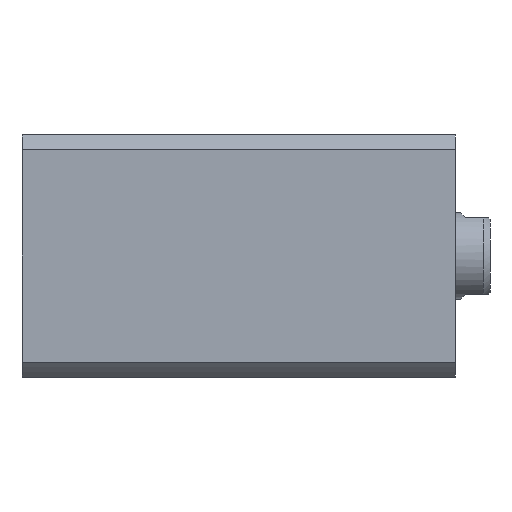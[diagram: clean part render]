
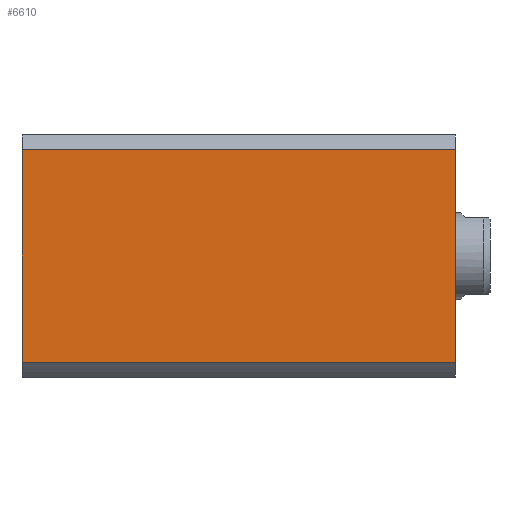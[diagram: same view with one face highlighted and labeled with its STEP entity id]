
A CAD part, left-side view. The second image highlights one B-rep face of the part: STEP entity #6610.
In plain terms, the highlighted planar face has unit normal (-1, 0, 0).
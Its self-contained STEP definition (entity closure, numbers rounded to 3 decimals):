
#448 = CARTESIAN_POINT ( 'NONE',  ( -35., 35., 0. ) ) ;
#485 = VERTEX_POINT ( 'NONE', #8207 ) ;
#511 = ORIENTED_EDGE ( 'NONE', *, *, #3788, .F. ) ;
#807 = VECTOR ( 'NONE', #3090, 1000. ) ;
#825 = CARTESIAN_POINT ( 'NONE',  ( -35., -30.615, 125. ) ) ;
#899 = DIRECTION ( 'NONE',  ( 0., 1., 0. ) ) ;
#988 = ORIENTED_EDGE ( 'NONE', *, *, #6186, .F. ) ;
#1399 = VERTEX_POINT ( 'NONE', #2968 ) ;
#2345 = ORIENTED_EDGE ( 'NONE', *, *, #3984, .F. ) ;
#2444 = PLANE ( 'NONE',  #2712 ) ;
#2712 = AXIS2_PLACEMENT_3D ( 'NONE', #9545, #5605, #899 ) ;
#2862 = FACE_OUTER_BOUND ( 'NONE', #3324, .T. ) ;
#2968 = CARTESIAN_POINT ( 'NONE',  ( -35., 30.615, 125. ) ) ;
#3090 = DIRECTION ( 'NONE',  ( 0., 0., -1. ) ) ;
#3324 = EDGE_LOOP ( 'NONE', ( #2345, #511, #988, #7697 ) ) ;
#3354 = LINE ( 'NONE', #448, #9162 ) ;
#3368 = VECTOR ( 'NONE', #9972, 1000. ) ;
#3788 = EDGE_CURVE ( 'NONE', #1399, #7191, #9677, .T. ) ;
#3851 = VECTOR ( 'NONE', #5524, 1000. ) ;
#3984 = EDGE_CURVE ( 'NONE', #7191, #7227, #4979, .T. ) ;
#4979 = LINE ( 'NONE', #9411, #807 ) ;
#5524 = DIRECTION ( 'NONE',  ( 0., 0., 1. ) ) ;
#5605 = DIRECTION ( 'NONE',  ( 1., 0., 0. ) ) ;
#5933 = DIRECTION ( 'NONE',  ( 0., -1., 0. ) ) ;
#6186 = EDGE_CURVE ( 'NONE', #485, #1399, #6192, .T. ) ;
#6192 = LINE ( 'NONE', #7872, #3851 ) ;
#6513 = EDGE_CURVE ( 'NONE', #485, #7227, #3354, .T. ) ;
#6610 = ADVANCED_FACE ( 'NONE', ( #2862 ), #2444, .F. ) ;
#7191 = VERTEX_POINT ( 'NONE', #825 ) ;
#7227 = VERTEX_POINT ( 'NONE', #7894 ) ;
#7697 = ORIENTED_EDGE ( 'NONE', *, *, #6513, .T. ) ;
#7872 = CARTESIAN_POINT ( 'NONE',  ( -35., 30.615, 300. ) ) ;
#7894 = CARTESIAN_POINT ( 'NONE',  ( -35., -30.615, 0. ) ) ;
#8207 = CARTESIAN_POINT ( 'NONE',  ( -35., 30.615, 0. ) ) ;
#8454 = CARTESIAN_POINT ( 'NONE',  ( -35., 35., 125. ) ) ;
#9162 = VECTOR ( 'NONE', #5933, 1000. ) ;
#9411 = CARTESIAN_POINT ( 'NONE',  ( -35., -30.615, 300. ) ) ;
#9545 = CARTESIAN_POINT ( 'NONE',  ( -35., 35., 125. ) ) ;
#9677 = LINE ( 'NONE', #8454, #3368 ) ;
#9972 = DIRECTION ( 'NONE',  ( 0., -1., 0. ) ) ;
